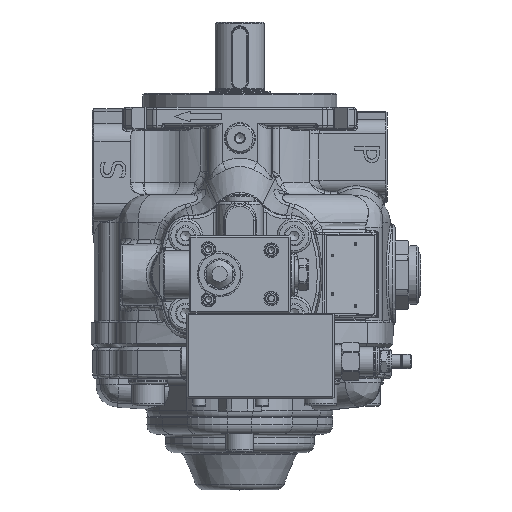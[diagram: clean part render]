
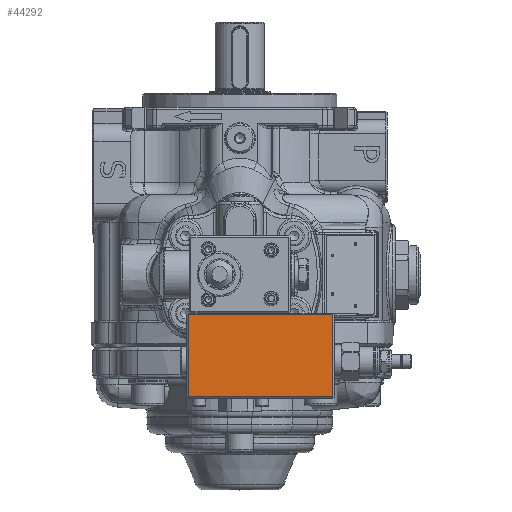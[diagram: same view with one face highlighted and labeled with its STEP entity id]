
A CAD part, top view. The second image highlights one B-rep face of the part: STEP entity #44292.
In plain terms, the highlighted planar face has unit normal (0, 0, 1).
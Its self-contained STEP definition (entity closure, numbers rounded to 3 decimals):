
#4060=LINE('',#89767,#6588);
#4061=LINE('',#89769,#6589);
#4062=LINE('',#89771,#6590);
#4063=LINE('',#89772,#6591);
#6588=VECTOR('',#58576,10.);
#6589=VECTOR('',#58577,10.);
#6590=VECTOR('',#58578,10.);
#6591=VECTOR('',#58579,10.);
#7790=PLANE('',#48381);
#10085=FACE_OUTER_BOUND('',#12698,.T.);
#12698=EDGE_LOOP('',(#37183,#37184,#37185,#37186));
#19782=VERTEX_POINT('',#89765);
#19783=VERTEX_POINT('',#89766);
#19784=VERTEX_POINT('',#89768);
#19785=VERTEX_POINT('',#89770);
#25745=EDGE_CURVE('',#19782,#19783,#4060,.T.);
#25746=EDGE_CURVE('',#19784,#19782,#4061,.T.);
#25747=EDGE_CURVE('',#19785,#19784,#4062,.T.);
#25748=EDGE_CURVE('',#19783,#19785,#4063,.T.);
#37183=ORIENTED_EDGE('',*,*,#25745,.F.);
#37184=ORIENTED_EDGE('',*,*,#25746,.F.);
#37185=ORIENTED_EDGE('',*,*,#25747,.F.);
#37186=ORIENTED_EDGE('',*,*,#25748,.F.);
#44292=ADVANCED_FACE('',(#10085),#7790,.T.);
#48381=AXIS2_PLACEMENT_3D('',#89764,#58574,#58575);
#58574=DIRECTION('center_axis',(0.,0.,
1.));
#58575=DIRECTION('ref_axis',(0.,1.,0.));
#58576=DIRECTION('',(-1.,0.,0.));
#58577=DIRECTION('',(0.,-1.,0.));
#58578=DIRECTION('',(1.,0.,0.));
#58579=DIRECTION('',(0.,1.,0.));
#89764=CARTESIAN_POINT('Origin',(57.208,-116.222,217.023));
#89765=CARTESIAN_POINT('',(56.208,-115.222,217.023));
#89766=CARTESIAN_POINT('',(-36.792,-115.222,217.023));
#89767=CARTESIAN_POINT('',(33.458,-115.222,217.023));
#89768=CARTESIAN_POINT('',(56.208,-62.222,217.023));
#89769=CARTESIAN_POINT('',(56.208,-116.222,217.023));
#89770=CARTESIAN_POINT('',(-36.792,-62.222,217.023));
#89771=CARTESIAN_POINT('',(33.458,-62.222,217.023));
#89772=CARTESIAN_POINT('',(-36.792,-116.222,217.023));
